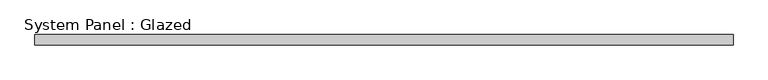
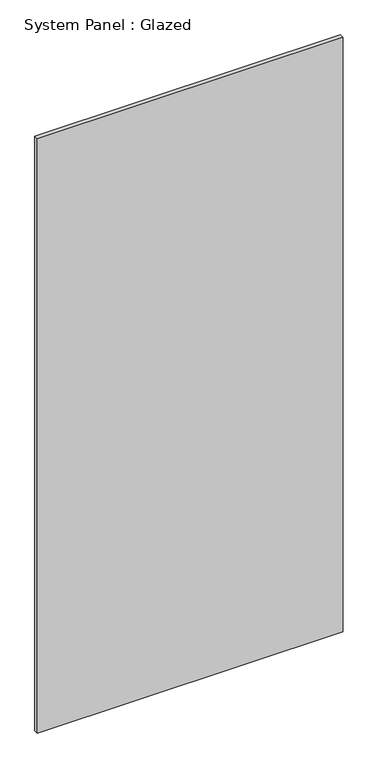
"""IFC4 building model written with IfcOpenShell, lengths in millimetres: plate geometry, System Panel : Glazed."""

from ifc_helpers import new_model, si_unit, origin, origin_with_axes, place, context, project, spatial, polyline, outline, extrude, source, transform, mapped, element, save


def system_panel_glazed_f2ce933e(model_context):
    return source(origin(), model_context, "Body", "SweptSolid", [
        extrude(outline(polyline([(866.7750114, 19.05), (-866.7750114, 19.05), (-866.7750114, 44.45), (866.7750114, 44.45), (866.7750114, 19.05)])), origin_with_axes(), (0.0, 0.0, 1.0), 3562.35),
    ])


if __name__ == "__main__":
    model = new_model("IFC4")
    model_context = context("Model", 3, world=origin())
    ifc_project = project(units=[si_unit("LENGTHUNIT", "METRE", prefix="MILLI")], contexts=[model_context])
    site = spatial("IfcSite", under=ifc_project)
    building = spatial("IfcBuilding", under=site)
    placement = place(None, origin())
    system_panel_glazed_shape = system_panel_glazed_f2ce933e(model_context)
    element("IfcPlate", 1, ObjectType="System Panel : Glazed", at=placement, inside=building, context=model_context, shape_type="MappedRepresentation", body=[
        mapped(system_panel_glazed_shape, transform((0.0, 0.0, 0.0), x_axis=(1.0, 0.0, 0.0), y_axis=(0.0, 1.0, 0.0), z_axis=(0.0, 0.0, 1.0))),
    ])
    save(model, "model.ifc")
